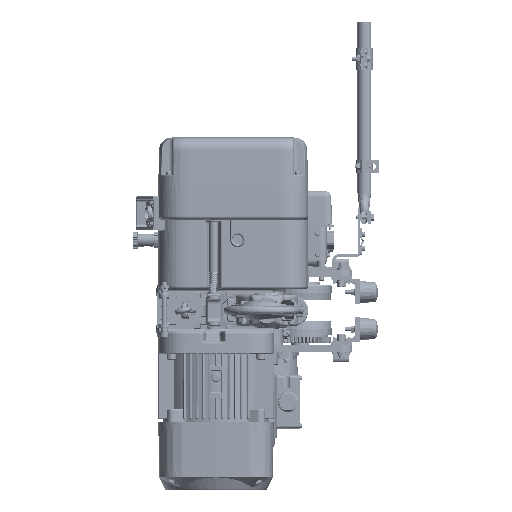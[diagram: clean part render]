
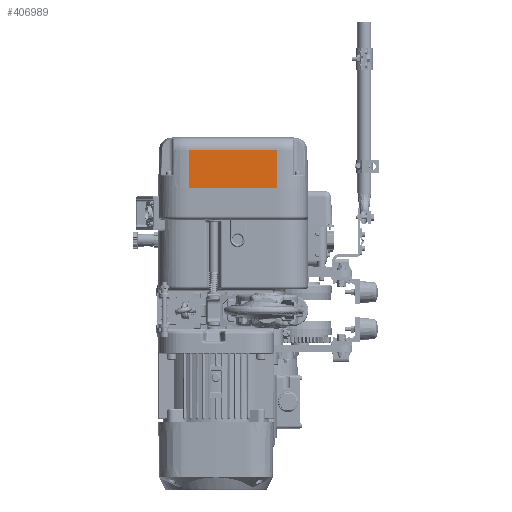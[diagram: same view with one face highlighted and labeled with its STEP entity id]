
A CAD part, front view. The second image highlights one B-rep face of the part: STEP entity #406989.
In plain terms, the highlighted planar face has unit normal (0, -1, 0.018).
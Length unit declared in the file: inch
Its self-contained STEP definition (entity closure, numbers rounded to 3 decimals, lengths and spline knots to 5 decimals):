
#1092 = CARTESIAN_POINT ( 'NONE',  ( 3.4341, -4.74409, 0. ) ) ;
#1458 = EDGE_CURVE ( 'NONE', #165860, #152389, #143444, .T. ) ;
#7259 = CARTESIAN_POINT ( 'NONE',  ( 3.4341, -4.74409, 0. ) ) ;
#16867 = VECTOR ( 'NONE', #161622, 39.37008 ) ;
#17622 = VECTOR ( 'NONE', #395080, 39.37008 ) ;
#25035 = EDGE_LOOP ( 'NONE', ( #295169, #239840, #269270, #199957 ) ) ;
#26271 = VERTEX_POINT ( 'NONE', #408830 ) ;
#28669 = DIRECTION ( 'NONE',  ( 0., -0.017, -1. ) ) ;
#32636 = LINE ( 'NONE', #324343, #16867 ) ;
#34902 = CARTESIAN_POINT ( 'NONE',  ( 0., -4.74409, 0. ) ) ;
#36962 = PLANE ( 'NONE',  #242367 ) ;
#42079 = CARTESIAN_POINT ( 'NONE',  ( 3.4341, -4.69293, 2.93125 ) ) ;
#95298 = EDGE_CURVE ( 'NONE', #26271, #152389, #32636, .T. ) ;
#137187 = CARTESIAN_POINT ( 'NONE',  ( 0., -4.74409, 0. ) ) ;
#143444 = LINE ( 'NONE', #137187, #17622 ) ;
#152389 = VERTEX_POINT ( 'NONE', #383677 ) ;
#161622 = DIRECTION ( 'NONE',  ( 0., -0.017, -1. ) ) ;
#165860 = VERTEX_POINT ( 'NONE', #7259 ) ;
#167450 = EDGE_CURVE ( 'NONE', #216470, #26271, #208654, .T. ) ;
#195628 = DIRECTION ( 'NONE',  ( 0., -0.017, -1. ) ) ;
#199957 = ORIENTED_EDGE ( 'NONE', *, *, #1458, .F. ) ;
#208654 = LINE ( 'NONE', #238330, #332504 ) ;
#216470 = VERTEX_POINT ( 'NONE', #42079 ) ;
#238330 = CARTESIAN_POINT ( 'NONE',  ( 0., -4.69293, 2.93125 ) ) ;
#239840 = ORIENTED_EDGE ( 'NONE', *, *, #167450, .T. ) ;
#242367 = AXIS2_PLACEMENT_3D ( 'NONE', #34902, #257029, #195628 ) ;
#257029 = DIRECTION ( 'NONE',  ( 0., -1., 0.017 ) ) ;
#263246 = LINE ( 'NONE', #1092, #296852 ) ;
#269270 = ORIENTED_EDGE ( 'NONE', *, *, #95298, .T. ) ;
#280709 = EDGE_CURVE ( 'NONE', #216470, #165860, #263246, .T. ) ;
#295169 = ORIENTED_EDGE ( 'NONE', *, *, #280709, .F. ) ;
#296852 = VECTOR ( 'NONE', #28669, 39.37008 ) ;
#324343 = CARTESIAN_POINT ( 'NONE',  ( -3.4341, -4.74409, 0. ) ) ;
#326590 = FACE_OUTER_BOUND ( 'NONE', #25035, .T. ) ;
#332504 = VECTOR ( 'NONE', #365141, 39.37008 ) ;
#365141 = DIRECTION ( 'NONE',  ( -1., 0., 0. ) ) ;
#383677 = CARTESIAN_POINT ( 'NONE',  ( -3.4341, -4.74409, 0. ) ) ;
#395080 = DIRECTION ( 'NONE',  ( -1., 0., 0. ) ) ;
#406989 = ADVANCED_FACE ( 'NONE', ( #326590 ), #36962, .T. ) ;
#408830 = CARTESIAN_POINT ( 'NONE',  ( -3.4341, -4.69293, 2.93125 ) ) ;
